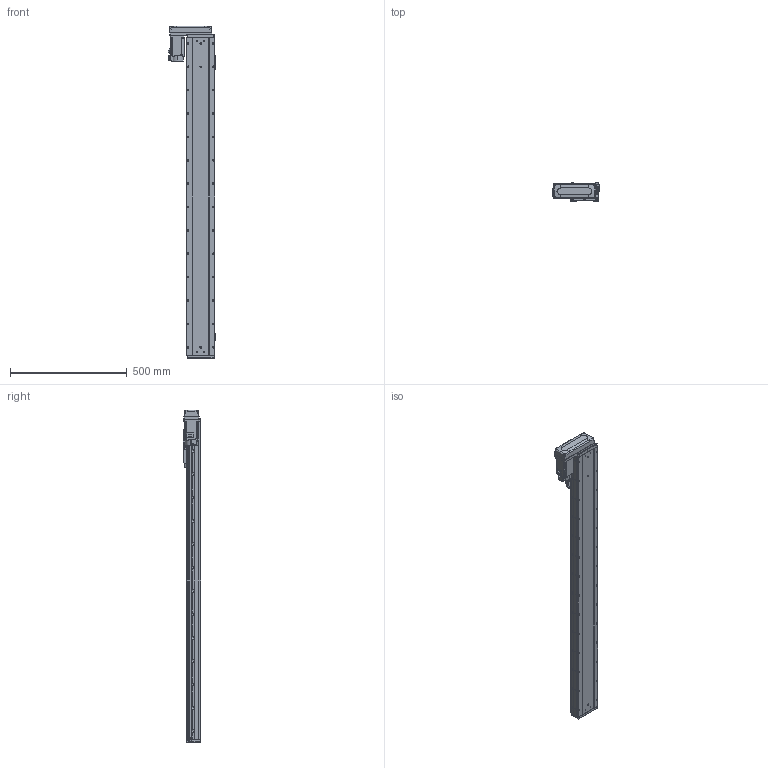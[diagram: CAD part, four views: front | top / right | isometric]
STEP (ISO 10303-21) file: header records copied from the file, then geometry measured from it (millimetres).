
FILE_DESCRIPTION (( 'STEP AP203' ), '1' );
FILE_NAME ('GTH12-1150-BR-M40-C4.step', '2025-07-16T03:43:22', ( '' ), ( '' ), 'SwSTEP 2.0', 'SolidWorks 2023', '' );
FILE_SCHEMA (( 'CONFIG_CONTROL_DESIGN' ));
Length unit declared in the file: millimetre
Products named in the file (18): GTH80-022; GTH120-001_1150; GTH50-023; GBT 70.1-M5×16; GTH120-013; GTH80-028; BTH-M3X5X6; GTH12-1150-BR-M40-C4; GTH50-024; GTH120-006; hg-kn43j_-s100_; GBT 70.1-M3×6; GBT96.1-2002 3×0.8; GTH120-027-1_GTH120-027-2; GTH120-004; CTHA86-033_M40B; GBT 70.3-M3×8; GTH120-003
Assembly tree (59 placements, depth 2):
  GTH12-1150-BR-M40-C4
    GTH120-001_1150
    GTH120-003
    GTH120-006
    GTH120-004
    GTH120-013
    GBT 70.1-M3×6  x14
    GBT 70.1-M5×16  x10
    GBT 70.3-M3×8  x4
    GTH80-022
    GTH80-028  x2
    GTH50-023  x3
    GTH50-024  x3
    GBT96.1-2002 3×0.8  x6
    BTH-M3X5X6  x8
    hg-kn43j_-s100_
    CTHA86-033_M40B
    GTH120-027-1_GTH120-027-2
Bounding box: 203.5 x 76 x 1420.5 mm (x, y, z)
Volume: 10113505.2 mm3; surface area: 848704.4 mm2
Topology: 61 solids, 61 shells, 2568 faces, 6027 edges, 3701 vertices
Faces by surface type: plane 1304, cylinder 764, cone 312, torus 174, sphere 8, bspline 6
Entity records: 49465 total; most frequent: CARTESIAN_POINT 8382, DIRECTION 8239, ORIENTED_EDGE 7664, EDGE_CURVE 3832, AXIS2_PLACEMENT_3D 2879, LINE 2481, VECTOR 2481, VERTEX_POINT 2422
